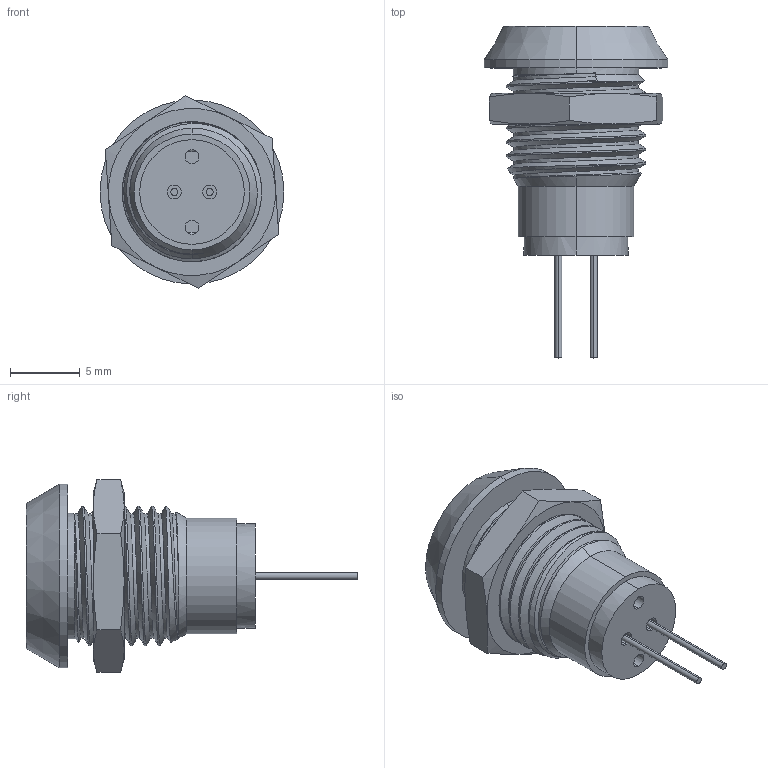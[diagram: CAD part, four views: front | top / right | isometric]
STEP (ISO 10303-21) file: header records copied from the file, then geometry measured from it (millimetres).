
FILE_DESCRIPTION (( 'STEP AP214' ), '1' );
FILE_NAME ('LED Holder.STEP', '2020-12-08T14:34:47', ( 'Admin' ), ( '' ), 'SwSTEP 2.0', 'SolidWorks 2018', '' );
FILE_SCHEMA (( 'AUTOMOTIVE_DESIGN' ));
Length unit declared in the file: millimetre
Products named in the file (5): Bi-polar LED 5 mm_00; Insert^LED Holder HX-010A_00; NUT M10x1_00; Holder_00; LED Holder
Assembly tree (4 placements, depth 2):
  LED Holder
    Holder_00
    NUT M10x1_00
    Insert^LED Holder HX-010A_00
    Bi-polar LED 5 mm_00
Bounding box: 13.2 x 23.81 x 13.82 mm (x, y, z)
Volume: 1171.5 mm3; surface area: 1933 mm2
Topology: 6 solids, 6 shells, 103 faces, 245 edges, 153 vertices
Faces by surface type: cylinder 38, cone 34, plane 21, bspline 6, torus 2, sphere 2
Entity records: 6448 total; most frequent: CARTESIAN_POINT 3909, ORIENTED_EDGE 486, DIRECTION 451, EDGE_CURVE 243, AXIS2_PLACEMENT_3D 192, VERTEX_POINT 153, EDGE_LOOP 116, FACE_OUTER_BOUND 103
